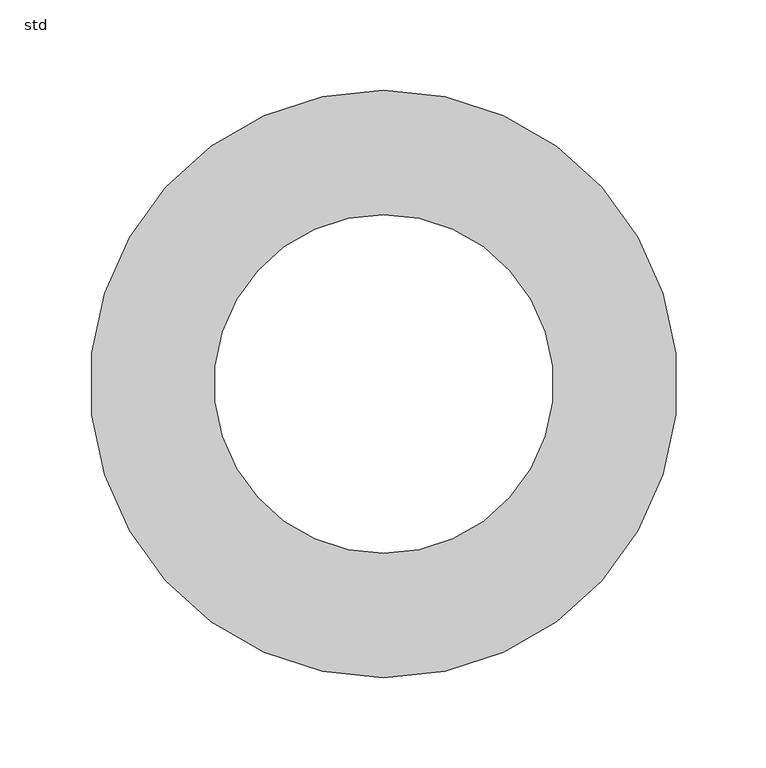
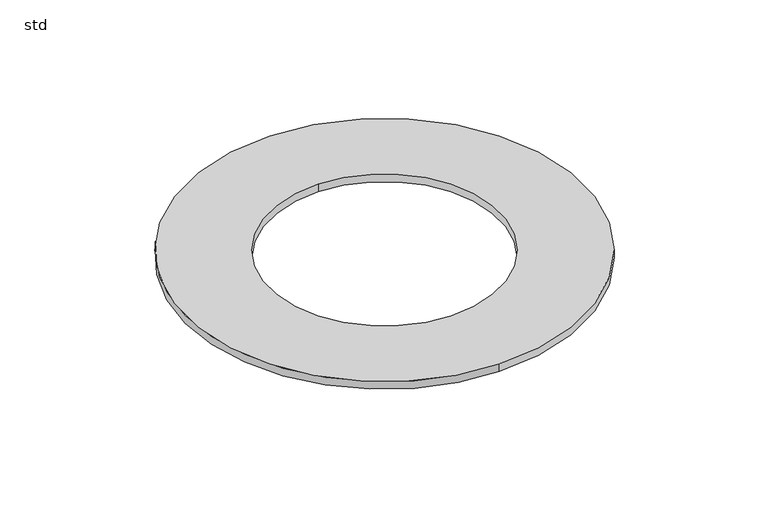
"""IFC4 building model written with IfcOpenShell, lengths in millimetres: sanitary terminal geometry, PF_GEN_UN_single body with grating DN80 Passavant Jet_ACO : std."""

from ifc_helpers import new_model, si_unit, point, frame, origin, origin_2d, place, context, project, spatial, circle_curve, trimmed, segment, composite_curve, outline, extrude, source, transform, mapped, element, save


def std_e8784c35(model_context):
    return source(origin(), model_context, "Body", "SweptSolid", [
        extrude(outline(composite_curve([segment(trimmed(circle_curve(origin_2d(), 163.0), [point((0.0, -163.0))], [point((0.0, 163.0))], False, "CARTESIAN"), True, "CONTINUOUS"), segment(trimmed(circle_curve(origin_2d(), 163.0), [point((0.0, 163.0))], [point((0.0, -163.0))], False, "CARTESIAN"), True, "CONTINUOUS")], self_intersect=False), holes=[composite_curve([segment(trimmed(circle_curve(origin_2d(), 94.0), [point((0.0, -94.0))], [point((0.0, 94.0))], True, "CARTESIAN"), True, "CONTINUOUS"), segment(trimmed(circle_curve(origin_2d(), 94.0), [point((0.0, 94.0))], [point((0.0, -94.0))], True, "CARTESIAN"), True, "CONTINUOUS")], self_intersect=False)]), frame((0.0, 0.0, 9.0), z_axis=(0.0, 0.0, 1.0), x_axis=(1.0, 0.0, 0.0)), (0.0, 0.0, 1.0), 6.5),
    ])


if __name__ == "__main__":
    model = new_model("IFC4")
    model_context = context("Model", 3, world=origin())
    ifc_project = project(units=[si_unit("LENGTHUNIT", "METRE", prefix="MILLI")], contexts=[model_context])
    site = spatial("IfcSite", under=ifc_project)
    building = spatial("IfcBuilding", under=site)
    placement = place(None, origin())
    std_shape = std_e8784c35(model_context)
    element("IfcSanitaryTerminal", 1, ObjectType="PF_GEN_UN_single body with grating DN80 Passavant Jet_ACO : std", at=placement, inside=building, context=model_context, shape_type="MappedRepresentation", body=[
        mapped(std_shape, transform((0.0, 0.0, 0.0), x_axis=(1.0, 0.0, 0.0), y_axis=(0.0, 1.0, 0.0), z_axis=(0.0, 0.0, 1.0))),
    ])
    save(model, "model.ifc")
